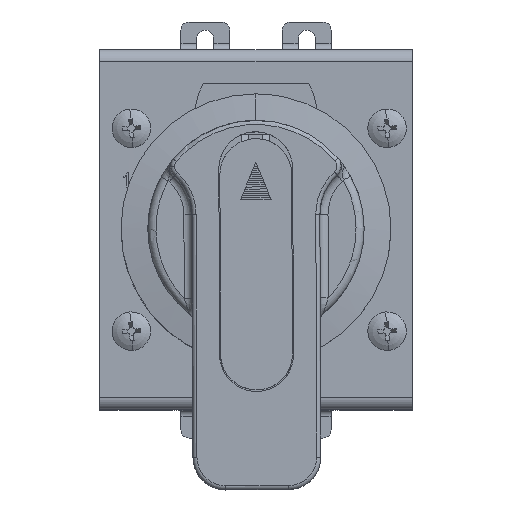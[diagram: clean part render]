
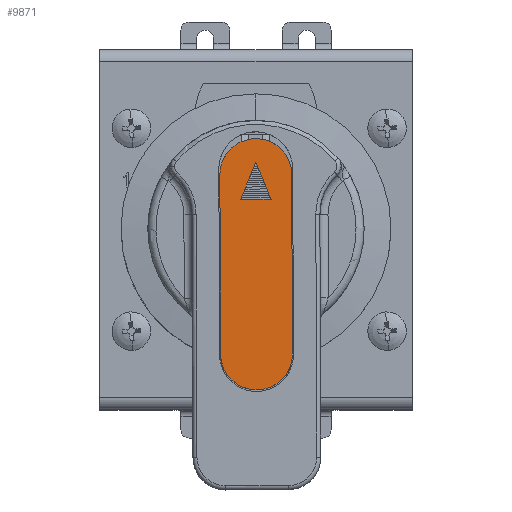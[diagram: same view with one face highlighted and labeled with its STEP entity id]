
A CAD part, top view. The second image highlights one B-rep face of the part: STEP entity #9871.
In plain terms, the highlighted planar face has unit normal (0, 0, 1) as drawn and (0, 1, 0) by its records, which use the part's own axes.
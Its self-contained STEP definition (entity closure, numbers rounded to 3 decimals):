
#2924 = EDGE_LOOP ( 'NONE', ( #4483, #87194, #52809, #27578 ) ) ;
#3067 = CARTESIAN_POINT ( 'NONE',  ( -7.25, 34., -3.75 ) ) ;
#3077 = CARTESIAN_POINT ( 'NONE',  ( 37.977, 34., -5.439 ) ) ;
#3753 = VERTEX_POINT ( 'NONE', #52719 ) ;
#4483 = ORIENTED_EDGE ( 'NONE', *, *, #29077, .T. ) ;
#4583 = CARTESIAN_POINT ( 'NONE',  ( -13.3, 34., -8.85 ) ) ;
#7158 = CARTESIAN_POINT ( 'NONE',  ( -13.3, 34., 8.85 ) ) ;
#8338 = B_SPLINE_CURVE_WITH_KNOTS ( 'NONE', 3,
 ( #29717, #36924, #22996, #72821, #18020, #58893, #86320, #52149, #38686, #11285, #66088, #31486, #45432, #24745, #79562, #69835, #42866, #35235 ),
 .UNSPECIFIED., .F., .F.,
 ( 4, 2, 2, 2, 2, 2, 2, 2, 4 ),
 ( 0., 0.125, 0.25, 0.375, 0.5, 0.625, 0.75, 0.875, 1. ),
 .UNSPECIFIED. ) ;
#8519 = ORIENTED_EDGE ( 'NONE', *, *, #15977, .F. ) ;
#8911 = CARTESIAN_POINT ( 'NONE',  ( 35.357, 34., 7.733 ) ) ;
#9798 = CARTESIAN_POINT ( 'NONE',  ( 32.058, 34., -8.85 ) ) ;
#9871 = ADVANCED_FACE ( 'NONE', ( #54551, #46075 ), #12377, .F. ) ;
#11285 = CARTESIAN_POINT ( 'NONE',  ( -22.15, 34., -1.158 ) ) ;
#12206 = CARTESIAN_POINT ( 'NONE',  ( 1.433, 34., -8.85 ) ) ;
#12377 = PLANE ( 'NONE',  #25251 ) ;
#14558 = VERTEX_POINT ( 'NONE', #23015 ) ;
#15387 = VERTEX_POINT ( 'NONE', #44574 ) ;
#15977 = EDGE_CURVE ( 'NONE', #29397, #15387, #88288, .T. ) ;
#16391 = CARTESIAN_POINT ( 'NONE',  ( -13.3, 34., 8.85 ) ) ;
#17403 = CARTESIAN_POINT ( 'NONE',  ( 33.216, 34., 8.62 ) ) ;
#18020 = CARTESIAN_POINT ( 'NONE',  ( -18.739, 34., 7.077 ) ) ;
#18331 = B_SPLINE_CURVE_WITH_KNOTS ( 'NONE', 3,
 ( #42569, #62338, #54684, #33608 ),
 .UNSPECIFIED., .F., .F.,
 ( 4, 4 ),
 ( 0., 1. ),
 .UNSPECIFIED. ) ;
#18664 = DIRECTION ( 'NONE',  ( 0., -1., 0. ) ) ;
#20443 = B_SPLINE_CURVE_WITH_KNOTS ( 'NONE', 3,
 ( #84820, #9798, #77182, #37201, #64605, #3077, #78519, #85277, #38085, #23710, #51103, #71782, #65033, #85711, #8911, #17403, #44817, #72210 ),
 .UNSPECIFIED., .F., .F.,
 ( 4, 2, 2, 2, 2, 2, 2, 2, 4 ),
 ( 0., 0.125, 0.25, 0.375, 0.5, 0.625, 0.75, 0.875, 1. ),
 .UNSPECIFIED. ) ;
#20461 = VERTEX_POINT ( 'NONE', #70002 ) ;
#22996 = CARTESIAN_POINT ( 'NONE',  ( -15.616, 34., 8.62 ) ) ;
#23015 = CARTESIAN_POINT ( 'NONE',  ( -13.3, 34., -8.85 ) ) ;
#23710 = CARTESIAN_POINT ( 'NONE',  ( 39.75, 34., 1.158 ) ) ;
#24745 = CARTESIAN_POINT ( 'NONE',  ( -18.739, 34., -7.077 ) ) ;
#25251 = AXIS2_PLACEMENT_3D ( 'NONE', #39778, #18664, #52790 ) ;
#27578 = ORIENTED_EDGE ( 'NONE', *, *, #41064, .F. ) ;
#29077 = EDGE_CURVE ( 'NONE', #50742, #20461, #45686, .T. ) ;
#29397 = VERTEX_POINT ( 'NONE', #50909 ) ;
#29709 = ORIENTED_EDGE ( 'NONE', *, *, #84404, .F. ) ;
#29717 = CARTESIAN_POINT ( 'NONE',  ( -13.3, 34., 8.85 ) ) ;
#30417 = CARTESIAN_POINT ( 'NONE',  ( -10.25, 34., -2.5 ) ) ;
#30844 = VERTEX_POINT ( 'NONE', #41498 ) ;
#31486 = CARTESIAN_POINT ( 'NONE',  ( -21.033, 34., -4.457 ) ) ;
#32865 = EDGE_CURVE ( 'NONE', #30844, #29397, #18331, .T. ) ;
#33608 = CARTESIAN_POINT ( 'NONE',  ( -7.25, 34., -3.75 ) ) ;
#34551 = CARTESIAN_POINT ( 'NONE',  ( 16.167, 34., 8.85 ) ) ;
#35235 = CARTESIAN_POINT ( 'NONE',  ( -13.3, 34., -8.85 ) ) ;
#36924 = CARTESIAN_POINT ( 'NONE',  ( -14.458, 34., 8.85 ) ) ;
#37201 = CARTESIAN_POINT ( 'NONE',  ( 35.357, 34., -7.733 ) ) ;
#38076 = CARTESIAN_POINT ( 'NONE',  ( -16.25, 34., 0. ) ) ;
#38085 = CARTESIAN_POINT ( 'NONE',  ( 39.75, 34., -1.158 ) ) ;
#38686 = CARTESIAN_POINT ( 'NONE',  ( -22.15, 34., 1.158 ) ) ;
#39778 = CARTESIAN_POINT ( 'NONE',  ( 30.9, 34., 0. ) ) ;
#41064 = EDGE_CURVE ( 'NONE', #50742, #14558, #8338, .T. ) ;
#41498 = CARTESIAN_POINT ( 'NONE',  ( -7.25, 34., 3.75 ) ) ;
#42569 = CARTESIAN_POINT ( 'NONE',  ( -7.25, 34., 3.75 ) ) ;
#42866 = CARTESIAN_POINT ( 'NONE',  ( -14.458, 34., -8.85 ) ) ;
#44574 = CARTESIAN_POINT ( 'NONE',  ( -16.25, 34., 0. ) ) ;
#44817 = CARTESIAN_POINT ( 'NONE',  ( 32.058, 34., 8.85 ) ) ;
#45432 = CARTESIAN_POINT ( 'NONE',  ( -20.377, 34., -5.439 ) ) ;
#45686 = B_SPLINE_CURVE_WITH_KNOTS ( 'NONE', 3,
 ( #7158, #87603, #34551, #47149 ),
 .UNSPECIFIED., .F., .F.,
 ( 4, 4 ),
 ( 0., 1. ),
 .UNSPECIFIED. ) ;
#46075 = FACE_BOUND ( 'NONE', #73337, .T. ) ;
#47149 = CARTESIAN_POINT ( 'NONE',  ( 30.9, 34., 8.85 ) ) ;
#49567 = CARTESIAN_POINT ( 'NONE',  ( -13.25, 34., 1.25 ) ) ;
#50742 = VERTEX_POINT ( 'NONE', #16391 ) ;
#50909 = CARTESIAN_POINT ( 'NONE',  ( -7.25, 34., -3.75 ) ) ;
#51103 = CARTESIAN_POINT ( 'NONE',  ( 39.52, 34., 2.316 ) ) ;
#52149 = CARTESIAN_POINT ( 'NONE',  ( -21.92, 34., 2.316 ) ) ;
#52719 = CARTESIAN_POINT ( 'NONE',  ( 30.9, 34., -8.85 ) ) ;
#52790 = DIRECTION ( 'NONE',  ( 0., 0., -1. ) ) ;
#52809 = ORIENTED_EDGE ( 'NONE', *, *, #83510, .T. ) ;
#54510 = CARTESIAN_POINT ( 'NONE',  ( -16.25, 34., 0. ) ) ;
#54551 = FACE_OUTER_BOUND ( 'NONE', #2924, .T. ) ;
#54684 = CARTESIAN_POINT ( 'NONE',  ( -7.25, 34., -1.25 ) ) ;
#57840 = CARTESIAN_POINT ( 'NONE',  ( -13.25, 34., -1.25 ) ) ;
#58893 = CARTESIAN_POINT ( 'NONE',  ( -20.377, 34., 5.439 ) ) ;
#61278 = CARTESIAN_POINT ( 'NONE',  ( -10.25, 34., 2.5 ) ) ;
#62338 = CARTESIAN_POINT ( 'NONE',  ( -7.25, 34., 1.25 ) ) ;
#64605 = CARTESIAN_POINT ( 'NONE',  ( 36.339, 34., -7.077 ) ) ;
#65033 = CARTESIAN_POINT ( 'NONE',  ( 37.977, 34., 5.439 ) ) ;
#66088 = CARTESIAN_POINT ( 'NONE',  ( -21.92, 34., -2.316 ) ) ;
#67820 = EDGE_CURVE ( 'NONE', #3753, #20461, #20443, .T. ) ;
#68108 = B_SPLINE_CURVE_WITH_KNOTS ( 'NONE', 3,
 ( #54510, #49567, #61278, #83266 ),
 .UNSPECIFIED., .F., .F.,
 ( 4, 4 ),
 ( 0., 1. ),
 .UNSPECIFIED. ) ;
#69835 = CARTESIAN_POINT ( 'NONE',  ( -15.616, 34., -8.62 ) ) ;
#70002 = CARTESIAN_POINT ( 'NONE',  ( 30.9, 34., 8.85 ) ) ;
#71782 = CARTESIAN_POINT ( 'NONE',  ( 38.633, 34., 4.457 ) ) ;
#72210 = CARTESIAN_POINT ( 'NONE',  ( 30.9, 34., 8.85 ) ) ;
#72821 = CARTESIAN_POINT ( 'NONE',  ( -17.757, 34., 7.733 ) ) ;
#73337 = EDGE_LOOP ( 'NONE', ( #85829, #29709, #8519 ) ) ;
#77182 = CARTESIAN_POINT ( 'NONE',  ( 33.216, 34., -8.62 ) ) ;
#78519 = CARTESIAN_POINT ( 'NONE',  ( 38.633, 34., -4.457 ) ) ;
#79562 = CARTESIAN_POINT ( 'NONE',  ( -17.757, 34., -7.733 ) ) ;
#80479 = CARTESIAN_POINT ( 'NONE',  ( 30.9, 34., -8.85 ) ) ;
#83266 = CARTESIAN_POINT ( 'NONE',  ( -7.25, 34., 3.75 ) ) ;
#83510 = EDGE_CURVE ( 'NONE', #3753, #14558, #85485, .T. ) ;
#84404 = EDGE_CURVE ( 'NONE', #15387, #30844, #68108, .T. ) ;
#84820 = CARTESIAN_POINT ( 'NONE',  ( 30.9, 34., -8.85 ) ) ;
#85277 = CARTESIAN_POINT ( 'NONE',  ( 39.52, 34., -2.316 ) ) ;
#85485 = B_SPLINE_CURVE_WITH_KNOTS ( 'NONE', 3,
 ( #80479, #86353, #12206, #4583 ),
 .UNSPECIFIED., .F., .F.,
 ( 4, 4 ),
 ( 0., 1. ),
 .UNSPECIFIED. ) ;
#85711 = CARTESIAN_POINT ( 'NONE',  ( 36.339, 34., 7.077 ) ) ;
#85829 = ORIENTED_EDGE ( 'NONE', *, *, #32865, .F. ) ;
#86320 = CARTESIAN_POINT ( 'NONE',  ( -21.033, 34., 4.457 ) ) ;
#86353 = CARTESIAN_POINT ( 'NONE',  ( 16.167, 34., -8.85 ) ) ;
#87194 = ORIENTED_EDGE ( 'NONE', *, *, #67820, .F. ) ;
#87603 = CARTESIAN_POINT ( 'NONE',  ( 1.433, 34., 8.85 ) ) ;
#88288 = B_SPLINE_CURVE_WITH_KNOTS ( 'NONE', 3,
 ( #3067, #30417, #57840, #38076 ),
 .UNSPECIFIED., .F., .F.,
 ( 4, 4 ),
 ( 0., 1. ),
 .UNSPECIFIED. ) ;
